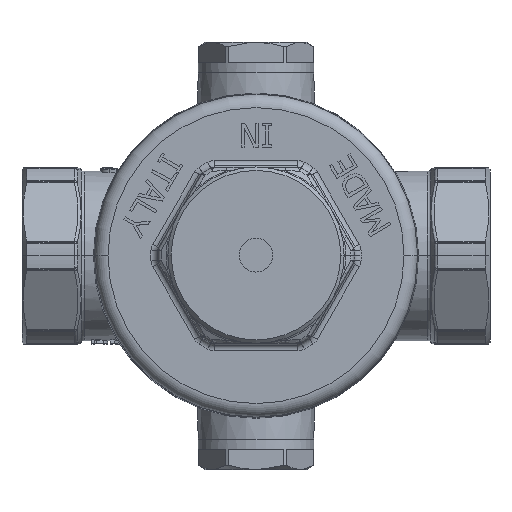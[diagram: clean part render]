
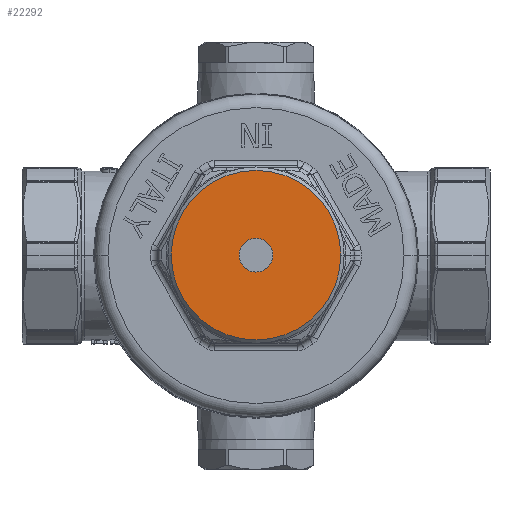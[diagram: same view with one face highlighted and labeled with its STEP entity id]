
A CAD part, top view. The second image highlights one B-rep face of the part: STEP entity #22292.
In plain terms, the highlighted planar face has unit normal (0, 0, 1) as drawn and (0, 0, -1) by its records, which use the part's own axes.
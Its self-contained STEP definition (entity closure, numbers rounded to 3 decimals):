
#2876 = CARTESIAN_POINT ( 'NONE',  ( 0., 0., 0. ) ) ;
#5963 = EDGE_LOOP ( 'NONE', ( #23017, #26534 ) ) ;
#6648 = DIRECTION ( 'NONE',  ( -1., 0., 0. ) ) ;
#6900 = DIRECTION ( 'NONE',  ( -1., 0., 0. ) ) ;
#7256 = DIRECTION ( 'NONE',  ( 0., 0., 1. ) ) ;
#8112 = CARTESIAN_POINT ( 'NONE',  ( 12.5, 0., 0. ) ) ;
#8882 = EDGE_CURVE ( 'NONE', #14851, #12401, #61982, .T. ) ;
#10595 = CARTESIAN_POINT ( 'NONE',  ( -12.5, 0., 0. ) ) ;
#10742 = AXIS2_PLACEMENT_3D ( 'NONE', #42312, #62903, #17143 ) ;
#12375 = CIRCLE ( 'NONE', #63537, 2.5 ) ;
#12401 = VERTEX_POINT ( 'NONE', #10595 ) ;
#14851 = VERTEX_POINT ( 'NONE', #8112 ) ;
#15819 = AXIS2_PLACEMENT_3D ( 'NONE', #26834, #32392, #6900 ) ;
#17143 = DIRECTION ( 'NONE',  ( -1., 0., 0. ) ) ;
#18429 = VERTEX_POINT ( 'NONE', #50547 ) ;
#22144 = FACE_BOUND ( 'NONE', #5963, .T. ) ;
#22292 = ADVANCED_FACE ( 'NONE', ( #22144, #31302 ), #57130, .T. ) ;
#23017 = ORIENTED_EDGE ( 'NONE', *, *, #53754, .T. ) ;
#26404 = DIRECTION ( 'NONE',  ( 0., 0., -1. ) ) ;
#26534 = ORIENTED_EDGE ( 'NONE', *, *, #45395, .T. ) ;
#26834 = CARTESIAN_POINT ( 'NONE',  ( 0., 0., 0. ) ) ;
#28493 = AXIS2_PLACEMENT_3D ( 'NONE', #46792, #7256, #56286 ) ;
#30566 = CIRCLE ( 'NONE', #10742, 2.5 ) ;
#31302 = FACE_OUTER_BOUND ( 'NONE', #52965, .T. ) ;
#32392 = DIRECTION ( 'NONE',  ( 0., 0., 1. ) ) ;
#36846 = DIRECTION ( 'NONE',  ( 0., -1., 0. ) ) ;
#40870 = CIRCLE ( 'NONE', #15819, 12.5 ) ;
#41607 = DIRECTION ( 'NONE',  ( 0., 0., 1. ) ) ;
#42312 = CARTESIAN_POINT ( 'NONE',  ( 0., 0., 0. ) ) ;
#45395 = EDGE_CURVE ( 'NONE', #59106, #18429, #30566, .T. ) ;
#46206 = CARTESIAN_POINT ( 'NONE',  ( 0., 0., 0. ) ) ;
#46792 = CARTESIAN_POINT ( 'NONE',  ( 0., 0., 0. ) ) ;
#50547 = CARTESIAN_POINT ( 'NONE',  ( -2.5, 0., 0. ) ) ;
#52272 = AXIS2_PLACEMENT_3D ( 'NONE', #2876, #26404, #36846 ) ;
#52685 = ORIENTED_EDGE ( 'NONE', *, *, #61156, .F. ) ;
#52965 = EDGE_LOOP ( 'NONE', ( #52685, #53390 ) ) ;
#53390 = ORIENTED_EDGE ( 'NONE', *, *, #8882, .F. ) ;
#53754 = EDGE_CURVE ( 'NONE', #18429, #59106, #12375, .T. ) ;
#56286 = DIRECTION ( 'NONE',  ( -1., 0., 0. ) ) ;
#57130 = PLANE ( 'NONE',  #52272 ) ;
#57474 = CARTESIAN_POINT ( 'NONE',  ( 2.5, 0., 0. ) ) ;
#59106 = VERTEX_POINT ( 'NONE', #57474 ) ;
#61156 = EDGE_CURVE ( 'NONE', #12401, #14851, #40870, .T. ) ;
#61982 = CIRCLE ( 'NONE', #28493, 12.5 ) ;
#62903 = DIRECTION ( 'NONE',  ( 0., 0., 1. ) ) ;
#63537 = AXIS2_PLACEMENT_3D ( 'NONE', #46206, #41607, #6648 ) ;
